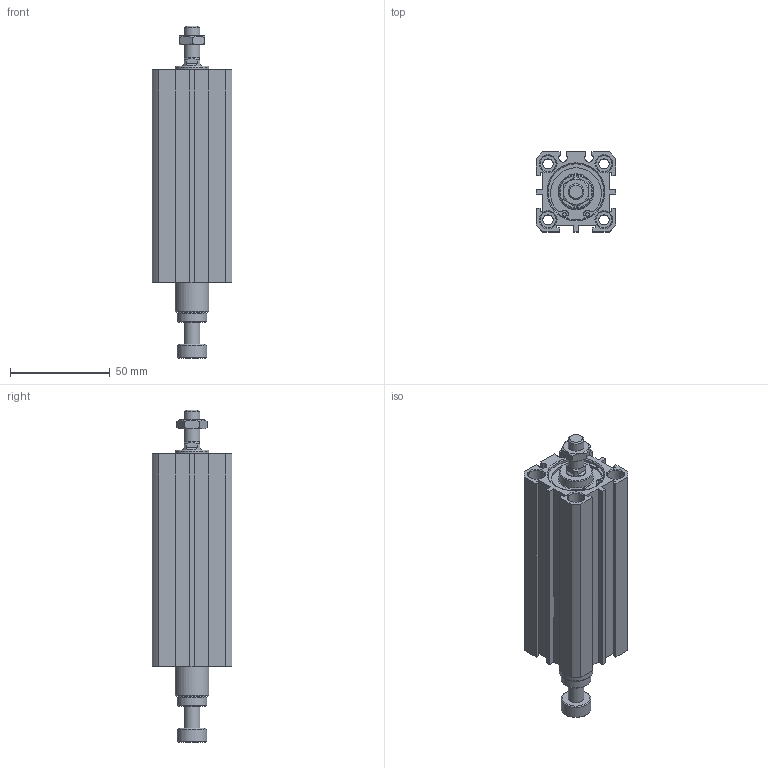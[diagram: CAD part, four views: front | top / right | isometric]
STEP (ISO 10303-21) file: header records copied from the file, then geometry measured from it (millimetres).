
FILE_DESCRIPTION((''),'2;1');
FILE_NAME('I:\3D電子目錄\氣缸\JDAR\JDAR-B\JDAR25-B\JDAR25x85-B.stp','2007-03-14T13:38:40',('662F206'),(''),'Autodesk Inventor 11','Autodesk Inventor 11','');
FILE_SCHEMA(('AUTOMOTIVE_DESIGN { 1 0 10303 214 1 1 1 1 }'));
Length unit declared in the file: millimetre
Products named in the file (3): JDAR25-B; R 形環 28
Assembly tree (3 placements, depth 2):
  JDAR25-B
    JDAR25-B
    R 形環 28  x2
Bounding box: 40 x 40 x 166.1 mm (x, y, z)
Volume: 143279.3 mm3; surface area: 39387 mm2
Topology: 3 solids, 3 shells, 175 faces, 406 edges, 263 vertices
Faces by surface type: plane 94, cylinder 50, cone 23, bspline 6, torus 2
Full cylindrical faces by diameter (mm): 1.5 x2, 1.9 x4, 5.1 x4, 8 x11, 10 x1, 15 x2, 17 x2, 28 x4, 29.4 x2
Entity records: 4479 total; most frequent: CARTESIAN_POINT 889, DIRECTION 742, ORIENTED_EDGE 630, EDGE_CURVE 315, AXIS2_PLACEMENT_3D 284, EDGE_LOOP 256, VERTEX_POINT 237, VECTOR 174
